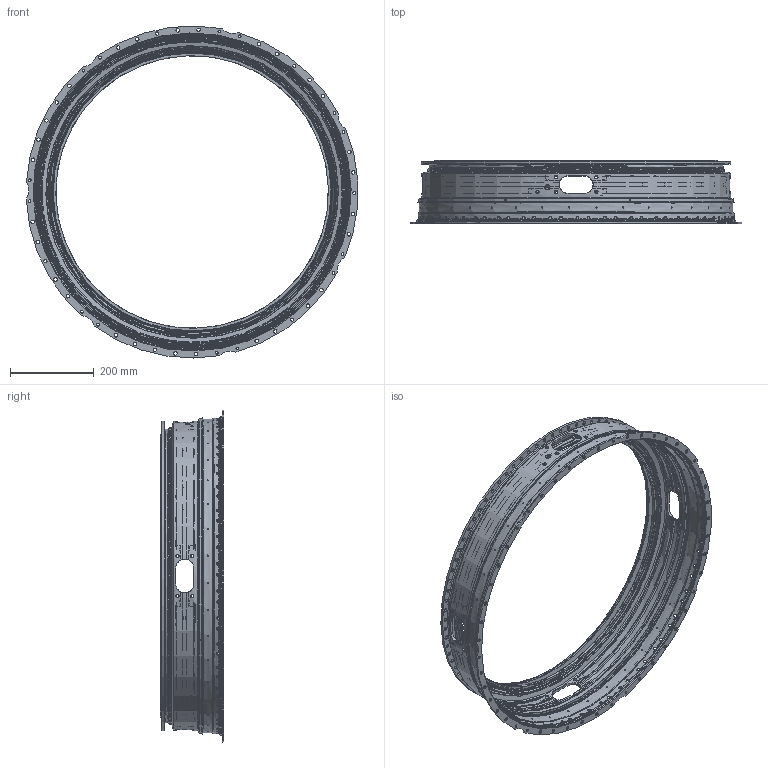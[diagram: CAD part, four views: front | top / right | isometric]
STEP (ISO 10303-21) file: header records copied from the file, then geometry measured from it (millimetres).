
FILE_DESCRIPTION(/* description */ (''),/* implementation_level */ '2;1');
FILE_NAME(/* name */ '0401优化-20250811-龙门.stp',/* time_stamp */ '2026-02-05T13:44:47+08:00',/* author */ (''),/* organization */ (''),/* preprocessor_version */ 'ST-DEVELOPER v20.1',/* originating_system */ 'SIEMENS PLM Software NX2512.1700',/* authorisation */ '');
FILE_SCHEMA (('AUTOMOTIVE_DESIGN { 1 0 10303 214 3 1 1 1 }'));
Length unit declared in the file: millimetre
Products named in the file (1): 0401优化-20250811-龙门_objects
Bounding box: 792.56 x 151.5 x 793.85 mm (x, y, z)
Volume: 2158513.3 mm3; surface area: 1369422.6 mm2
Topology: 1 solids, 1 shells, 1976 faces, 6213 edges, 4126 vertices
Faces by surface type: cylinder 831, plane 506, cone 317, torus 243, bspline 79
Full cylindrical faces by diameter (mm): 2 x1, 2.8 x84, 2.9 x36, 3 x90, 4.5 x2, 6.5 x14, 7 x72, 7.16 x17, 7.6 x35, 8.5 x84, 12 x1, 652.06 x1, 655.86 x1, 661.06 x2, 661.76 x2, 665.94 x1, 666.45 x1, 670.14 x1, 672.2 x1, 676.25 x1, 680.448 x1, 685.4 x1, 697.54 x1, 698.16 x1, 702.74 x1, 704.75 x2, 728.45 x1, 732.2 x1, 736.66 x1, 737.15 x1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
Entity records: 93494 total; most frequent: CARTESIAN_POINT 45608, ORIENTED_EDGE 10046, DIRECTION 8666, EDGE_CURVE 5023, AXIS2_PLACEMENT_3D 3998, VERTEX_POINT 3631, EDGE_LOOP 3308, B_SPLINE_CURVE_WITH_KNOTS 2233
